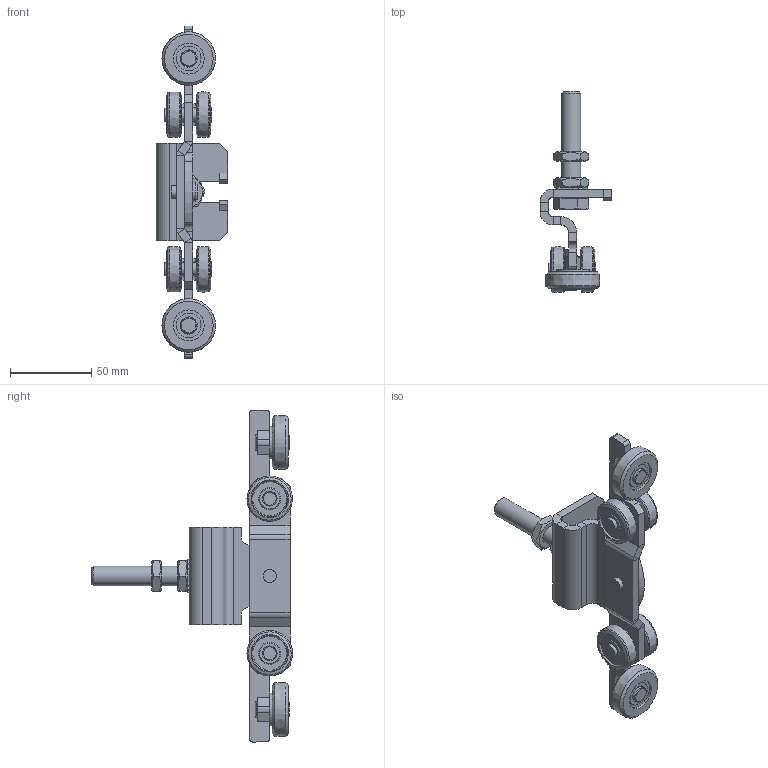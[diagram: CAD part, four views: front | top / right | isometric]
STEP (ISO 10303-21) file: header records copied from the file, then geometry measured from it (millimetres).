
FILE_DESCRIPTION(/* description */ ('Rollenhalter mi Seiten Nr.1'),/* implementation_level */ '2;1');
FILE_NAME(/* name */ 'Q:\sge-ma\Produktmanagement-STB\STB\Workspace\stp\010337910.stp',/* time_stamp */ '2015-06-01T10:43:51+02:00',/* author */ ('avschreier'),/* organization */ (''),/* preprocessor_version */ 'ST-DEVELOPER v15.6',/* originating_system */ 'Autodesk Inventor 2015',/* authorisation */ '');
FILE_SCHEMA (('CONFIG_CONTROL_DESIGN'));
Length unit declared in the file: millimetre
Products named in the file (18): 336300010_Schweißnähte; 337000120; 000302052; 000302000; 337000281; DIN_625-6000_ZZ_en; 000302001; DIN_EN_ISO_7090-10,5_en; 336300010; 337000224; 000302238; DIN_EN_ISO_4035-M12_en; DIN_6798-A_13_en; DIN_EN_ISO_4017-M12x65_en; 336290010; 000304011; 000303235; 010337910
Bounding box: 44 x 123.5 x 204 mm (x, y, z)
Volume: 95688.1 mm3; surface area: 57224 mm2
Topology: 31 solids, 33 shells, 738 faces, 1811 edges, 1148 vertices
Faces by surface type: plane 401, cylinder 166, cone 71, bspline 46, torus 42, sphere 12
Full cylindrical faces by diameter (mm): 8 x8, 8.1 x1, 9.9 x2, 10 x4, 10.106 x2, 10.5 x2, 11.053 x1, 12 x2, 13 x1, 15.12 x8, 17.2 x1, 19 x2, 20 x2, 20.88 x8, 26 x4
Entity records: 15829 total; most frequent: CARTESIAN_POINT 4550, DIRECTION 2298, ORIENTED_EDGE 2192, EDGE_CURVE 1096, AXIS2_PLACEMENT_3D 861, VERTEX_POINT 721, LINE 576, VECTOR 576
